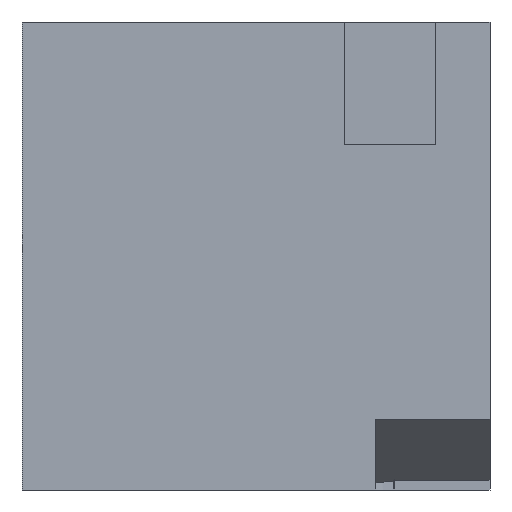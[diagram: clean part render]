
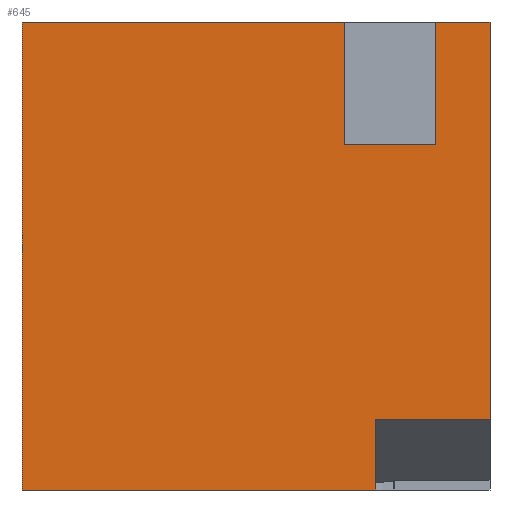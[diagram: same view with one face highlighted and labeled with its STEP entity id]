
A CAD part, left-side view. The second image highlights one B-rep face of the part: STEP entity #645.
In plain terms, the highlighted planar face has unit normal (-1, 0, 0).
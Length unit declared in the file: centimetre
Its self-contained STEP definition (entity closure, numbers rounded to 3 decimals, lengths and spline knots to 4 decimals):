
#13 = LINE ( 'NONE', #980, #953 ) ;
#16 = CARTESIAN_POINT ( 'NONE',  ( 0., 243.6525, 151.2613 ) ) ;
#19 = CARTESIAN_POINT ( 'NONE',  ( 0., 1000., 0. ) ) ;
#35 = ORIENTED_EDGE ( 'NONE', *, *, #517, .T. ) ;
#58 = CARTESIAN_POINT ( 'NONE',  ( 0., 116.2465, 737.4163 ) ) ;
#94 = PLANE ( 'NONE',  #885 ) ;
#95 = ORIENTED_EDGE ( 'NONE', *, *, #683, .F. ) ;
#129 = LINE ( 'NONE', #16, #987 ) ;
#141 = LINE ( 'NONE', #700, #164 ) ;
#143 = DIRECTION ( 'NONE',  ( 0., 0., 1. ) ) ;
#155 = DIRECTION ( 'NONE',  ( 0., 0., -1. ) ) ;
#156 = CARTESIAN_POINT ( 'NONE',  ( 0., 1000., 0. ) ) ;
#164 = VECTOR ( 'NONE', #461, 100. ) ;
#174 = DIRECTION ( 'NONE',  ( 0., 0., 1. ) ) ;
#184 = CARTESIAN_POINT ( 'NONE',  ( 0., 0., 1000. ) ) ;
#189 = VECTOR ( 'NONE', #143, 100. ) ;
#239 = ORIENTED_EDGE ( 'NONE', *, *, #965, .T. ) ;
#256 = EDGE_LOOP ( 'NONE', ( #95, #555, #395, #239, #35, #463, #534, #831, #988, #291 ) ) ;
#259 = VECTOR ( 'NONE', #174, 100. ) ;
#266 = CARTESIAN_POINT ( 'NONE',  ( 0., 243.6525, 151.2613 ) ) ;
#286 = VERTEX_POINT ( 'NONE', #840 ) ;
#289 = CARTESIAN_POINT ( 'NONE',  ( 0., 1000., 1000. ) ) ;
#291 = ORIENTED_EDGE ( 'NONE', *, *, #415, .F. ) ;
#302 = VECTOR ( 'NONE', #155, 100. ) ;
#344 = DIRECTION ( 'NONE',  ( 0., 0., -1. ) ) ;
#356 = CARTESIAN_POINT ( 'NONE',  ( 0., 243.6525, 0. ) ) ;
#395 = ORIENTED_EDGE ( 'NONE', *, *, #704, .F. ) ;
#411 = DIRECTION ( 'NONE',  ( 1., 0., 0. ) ) ;
#414 = LINE ( 'NONE', #962, #649 ) ;
#415 = EDGE_CURVE ( 'NONE', #469, #702, #861, .T. ) ;
#426 = VECTOR ( 'NONE', #540, 100. ) ;
#445 = VERTEX_POINT ( 'NONE', #775 ) ;
#461 = DIRECTION ( 'NONE',  ( 0., 0., -1. ) ) ;
#463 = ORIENTED_EDGE ( 'NONE', *, *, #949, .F. ) ;
#469 = VERTEX_POINT ( 'NONE', #1019 ) ;
#474 = DIRECTION ( 'NONE',  ( 0., -1., 0. ) ) ;
#489 = LINE ( 'NONE', #952, #259 ) ;
#517 = EDGE_CURVE ( 'NONE', #731, #708, #937, .T. ) ;
#534 = ORIENTED_EDGE ( 'NONE', *, *, #863, .T. ) ;
#540 = DIRECTION ( 'NONE',  ( 0., 0., -1. ) ) ;
#555 = ORIENTED_EDGE ( 'NONE', *, *, #599, .T. ) ;
#566 = VECTOR ( 'NONE', #474, 100. ) ;
#599 = EDGE_CURVE ( 'NONE', #781, #445, #489, .T. ) ;
#645 = ADVANCED_FACE ( 'NONE', ( #802 ), #94, .F. ) ;
#649 = VECTOR ( 'NONE', #725, 100. ) ;
#663 = DIRECTION ( 'NONE',  ( 0., -1., 0. ) ) ;
#677 = DIRECTION ( 'NONE',  ( 0., -1., 0. ) ) ;
#683 = EDGE_CURVE ( 'NONE', #781, #469, #414, .T. ) ;
#695 = CARTESIAN_POINT ( 'NONE',  ( 0., 1000., 1000. ) ) ;
#700 = CARTESIAN_POINT ( 'NONE',  ( 0., 1000., 1000. ) ) ;
#702 = VERTEX_POINT ( 'NONE', #811 ) ;
#704 = EDGE_CURVE ( 'NONE', #909, #445, #13, .T. ) ;
#708 = VERTEX_POINT ( 'NONE', #356 ) ;
#725 = DIRECTION ( 'NONE',  ( 0., -1., 0. ) ) ;
#731 = VERTEX_POINT ( 'NONE', #19 ) ;
#733 = CARTESIAN_POINT ( 'NONE',  ( 0., 0., 1000. ) ) ;
#763 = CARTESIAN_POINT ( 'NONE',  ( 0., 310.9127, 737.4163 ) ) ;
#768 = LINE ( 'NONE', #695, #872 ) ;
#775 = CARTESIAN_POINT ( 'NONE',  ( 0., 310.9127, 1000. ) ) ;
#781 = VERTEX_POINT ( 'NONE', #763 ) ;
#790 = CARTESIAN_POINT ( 'NONE',  ( 0., 243.6525, 0. ) ) ;
#802 = FACE_OUTER_BOUND ( 'NONE', #256, .T. ) ;
#811 = CARTESIAN_POINT ( 'NONE',  ( 0., 116.2465, 1000. ) ) ;
#831 = ORIENTED_EDGE ( 'NONE', *, *, #930, .F. ) ;
#840 = CARTESIAN_POINT ( 'NONE',  ( 0., 0., 151.2613 ) ) ;
#850 = LINE ( 'NONE', #790, #302 ) ;
#861 = LINE ( 'NONE', #58, #189 ) ;
#863 = EDGE_CURVE ( 'NONE', #928, #286, #129, .T. ) ;
#872 = VECTOR ( 'NONE', #924, 100. ) ;
#878 = CARTESIAN_POINT ( 'NONE',  ( 0., 1000., 1000. ) ) ;
#885 = AXIS2_PLACEMENT_3D ( 'NONE', #878, #411, #344 ) ;
#892 = LINE ( 'NONE', #184, #426 ) ;
#909 = VERTEX_POINT ( 'NONE', #289 ) ;
#920 = VERTEX_POINT ( 'NONE', #733 ) ;
#924 = DIRECTION ( 'NONE',  ( 0., -1., 0. ) ) ;
#928 = VERTEX_POINT ( 'NONE', #266 ) ;
#930 = EDGE_CURVE ( 'NONE', #920, #286, #892, .T. ) ;
#937 = LINE ( 'NONE', #156, #566 ) ;
#949 = EDGE_CURVE ( 'NONE', #928, #708, #850, .T. ) ;
#952 = CARTESIAN_POINT ( 'NONE',  ( 0., 310.9127, 737.4163 ) ) ;
#953 = VECTOR ( 'NONE', #663, 100. ) ;
#962 = CARTESIAN_POINT ( 'NONE',  ( 0., 116.2465, 737.4163 ) ) ;
#965 = EDGE_CURVE ( 'NONE', #909, #731, #141, .T. ) ;
#980 = CARTESIAN_POINT ( 'NONE',  ( 0., 1000., 1000. ) ) ;
#987 = VECTOR ( 'NONE', #677, 100. ) ;
#988 = ORIENTED_EDGE ( 'NONE', *, *, #993, .F. ) ;
#993 = EDGE_CURVE ( 'NONE', #702, #920, #768, .T. ) ;
#1019 = CARTESIAN_POINT ( 'NONE',  ( 0., 116.2465, 737.4163 ) ) ;
